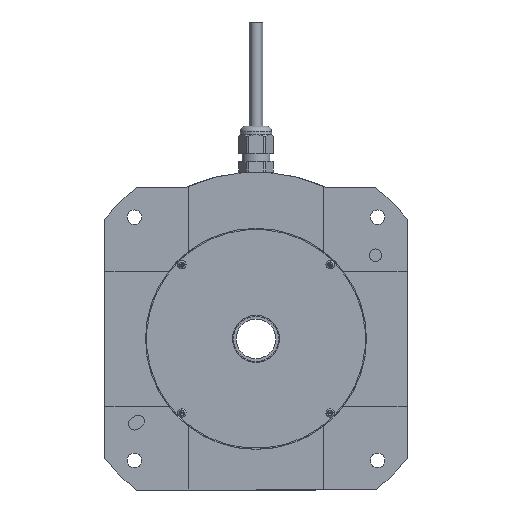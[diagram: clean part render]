
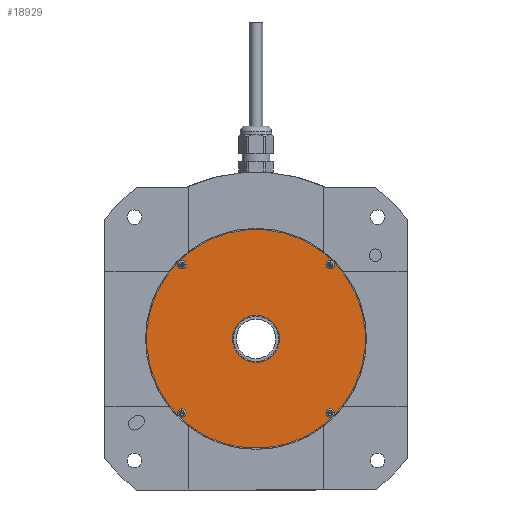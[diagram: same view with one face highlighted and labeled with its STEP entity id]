
A CAD part, front view. The second image highlights one B-rep face of the part: STEP entity #18929.
In plain terms, the highlighted planar face has unit normal (0, -1, 0).
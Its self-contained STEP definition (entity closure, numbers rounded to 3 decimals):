
#205 = EDGE_CURVE ( 'NONE', #10092, #21693, #2840, .T. ) ;
#257 = AXIS2_PLACEMENT_3D ( 'NONE', #3987, #3760, #7088 ) ;
#472 = ORIENTED_EDGE ( 'NONE', *, *, #205, .T. ) ;
#776 = DIRECTION ( 'NONE',  ( 0., 1., 0. ) ) ;
#807 = EDGE_CURVE ( 'NONE', #15080, #19200, #2138, .T. ) ;
#822 = CIRCLE ( 'NONE', #7948, 1.5 ) ;
#881 = CARTESIAN_POINT ( 'NONE',  ( 35.567, 1.5, 35.567 ) ) ;
#955 = VERTEX_POINT ( 'NONE', #10826 ) ;
#1368 = AXIS2_PLACEMENT_3D ( 'NONE', #3294, #16888, #9955 ) ;
#1726 = EDGE_LOOP ( 'NONE', ( #2961, #18874 ) ) ;
#1793 = CARTESIAN_POINT ( 'NONE',  ( -37.123, 1.5, -37.123 ) ) ;
#1878 = ORIENTED_EDGE ( 'NONE', *, *, #20286, .T. ) ;
#2058 = AXIS2_PLACEMENT_3D ( 'NONE', #7341, #776, #13951 ) ;
#2086 = AXIS2_PLACEMENT_3D ( 'NONE', #10496, #20783, #20351 ) ;
#2138 = CIRCLE ( 'NONE', #14526, 1.5 ) ;
#2636 = ORIENTED_EDGE ( 'NONE', *, *, #19185, .T. ) ;
#2840 = CIRCLE ( 'NONE', #15896, 1.5 ) ;
#2961 = ORIENTED_EDGE ( 'NONE', *, *, #5698, .T. ) ;
#3294 = CARTESIAN_POINT ( 'NONE',  ( -35.567, 1.5, -35.567 ) ) ;
#3736 = AXIS2_PLACEMENT_3D ( 'NONE', #11295, #17793, #18137 ) ;
#3760 = DIRECTION ( 'NONE',  ( 0., 1., 0. ) ) ;
#3954 = ORIENTED_EDGE ( 'NONE', *, *, #12160, .T. ) ;
#3987 = CARTESIAN_POINT ( 'NONE',  ( 0., 1.5, 0. ) ) ;
#4535 = EDGE_LOOP ( 'NONE', ( #472, #3954 ) ) ;
#4592 = EDGE_CURVE ( 'NONE', #19658, #11033, #6892, .T. ) ;
#5025 = CARTESIAN_POINT ( 'NONE',  ( 36.628, 1.5, 36.628 ) ) ;
#5115 = AXIS2_PLACEMENT_3D ( 'NONE', #881, #5993, #7663 ) ;
#5283 = AXIS2_PLACEMENT_3D ( 'NONE', #14720, #21479, #19830 ) ;
#5317 = DIRECTION ( 'NONE',  ( 0., 1., 0. ) ) ;
#5459 = DIRECTION ( 'NONE',  ( 0., 1., 0. ) ) ;
#5650 = EDGE_CURVE ( 'NONE', #20979, #21446, #14684, .T. ) ;
#5698 = EDGE_CURVE ( 'NONE', #955, #19625, #11875, .T. ) ;
#5993 = DIRECTION ( 'NONE',  ( 0., 1., 0. ) ) ;
#6026 = VERTEX_POINT ( 'NONE', #17473 ) ;
#6309 = DIRECTION ( 'NONE',  ( 0., 1., 0. ) ) ;
#6355 = DIRECTION ( 'NONE',  ( 0.707, 0., 0.707 ) ) ;
#6431 = ORIENTED_EDGE ( 'NONE', *, *, #17975, .F. ) ;
#6697 = CARTESIAN_POINT ( 'NONE',  ( -36.628, 1.5, -36.628 ) ) ;
#6892 = CIRCLE ( 'NONE', #5115, 1.5 ) ;
#6978 = FACE_BOUND ( 'NONE', #1726, .T. ) ;
#7088 = DIRECTION ( 'NONE',  ( 0.707, 0., 0.707 ) ) ;
#7117 = CARTESIAN_POINT ( 'NONE',  ( -34.507, 1.5, 36.628 ) ) ;
#7200 = PLANE ( 'NONE',  #257 ) ;
#7341 = CARTESIAN_POINT ( 'NONE',  ( 0., 1.5, 0. ) ) ;
#7404 = FACE_BOUND ( 'NONE', #4535, .T. ) ;
#7663 = DIRECTION ( 'NONE',  ( 0.707, 0., 0.707 ) ) ;
#7768 = EDGE_CURVE ( 'NONE', #19625, #955, #19750, .T. ) ;
#7948 = AXIS2_PLACEMENT_3D ( 'NONE', #9684, #16401, #6355 ) ;
#8521 = DIRECTION ( 'NONE',  ( 0., 1., 0. ) ) ;
#9484 = AXIS2_PLACEMENT_3D ( 'NONE', #14643, #11357, #11124 ) ;
#9684 = CARTESIAN_POINT ( 'NONE',  ( -35.567, 1.5, 35.567 ) ) ;
#9955 = DIRECTION ( 'NONE',  ( 0.707, 0., 0.707 ) ) ;
#10092 = VERTEX_POINT ( 'NONE', #7117 ) ;
#10291 = CIRCLE ( 'NONE', #13140, 1.5 ) ;
#10332 = CARTESIAN_POINT ( 'NONE',  ( -35.567, 1.5, -35.567 ) ) ;
#10496 = CARTESIAN_POINT ( 'NONE',  ( 0., 1.5, 0. ) ) ;
#10826 = CARTESIAN_POINT ( 'NONE',  ( -7.99, 1.5, -7.99 ) ) ;
#10854 = ORIENTED_EDGE ( 'NONE', *, *, #4592, .T. ) ;
#10947 = CARTESIAN_POINT ( 'NONE',  ( 0., 1.5, 0. ) ) ;
#11033 = VERTEX_POINT ( 'NONE', #5025 ) ;
#11062 = DIRECTION ( 'NONE',  ( 0.707, 0., 0.707 ) ) ;
#11124 = DIRECTION ( 'NONE',  ( 0.707, 0., 0.707 ) ) ;
#11295 = CARTESIAN_POINT ( 'NONE',  ( 0., 1.5, 0. ) ) ;
#11357 = DIRECTION ( 'NONE',  ( 0., 1., 0. ) ) ;
#11875 = CIRCLE ( 'NONE', #3736, 11.3 ) ;
#11915 = CARTESIAN_POINT ( 'NONE',  ( 34.507, 1.5, 34.507 ) ) ;
#11925 = VERTEX_POINT ( 'NONE', #6697 ) ;
#11948 = CARTESIAN_POINT ( 'NONE',  ( 35.567, 1.5, -35.567 ) ) ;
#12082 = DIRECTION ( 'NONE',  ( 0.707, 0., 0.707 ) ) ;
#12140 = ORIENTED_EDGE ( 'NONE', *, *, #16320, .T. ) ;
#12160 = EDGE_CURVE ( 'NONE', #21693, #10092, #822, .T. ) ;
#12991 = CARTESIAN_POINT ( 'NONE',  ( 34.507, 1.5, -36.628 ) ) ;
#13140 = AXIS2_PLACEMENT_3D ( 'NONE', #10332, #5459, #18615 ) ;
#13582 = ORIENTED_EDGE ( 'NONE', *, *, #18534, .T. ) ;
#13699 = FACE_BOUND ( 'NONE', #16368, .T. ) ;
#13951 = DIRECTION ( 'NONE',  ( 0.707, 0., 0.707 ) ) ;
#14526 = AXIS2_PLACEMENT_3D ( 'NONE', #11948, #8521, #20126 ) ;
#14643 = CARTESIAN_POINT ( 'NONE',  ( 35.567, 1.5, -35.567 ) ) ;
#14684 = CIRCLE ( 'NONE', #18562, 52.5 ) ;
#14720 = CARTESIAN_POINT ( 'NONE',  ( 35.567, 1.5, 35.567 ) ) ;
#14819 = EDGE_LOOP ( 'NONE', ( #2636, #12140 ) ) ;
#15080 = VERTEX_POINT ( 'NONE', #12991 ) ;
#15563 = FACE_BOUND ( 'NONE', #14819, .T. ) ;
#15674 = FACE_BOUND ( 'NONE', #21561, .T. ) ;
#15896 = AXIS2_PLACEMENT_3D ( 'NONE', #20463, #5317, #12082 ) ;
#16320 = EDGE_CURVE ( 'NONE', #11925, #6026, #10291, .T. ) ;
#16368 = EDGE_LOOP ( 'NONE', ( #13582, #21759 ) ) ;
#16401 = DIRECTION ( 'NONE',  ( 0., 1., 0. ) ) ;
#16888 = DIRECTION ( 'NONE',  ( 0., 1., 0. ) ) ;
#16940 = CIRCLE ( 'NONE', #2086, 52.5 ) ;
#17473 = CARTESIAN_POINT ( 'NONE',  ( -34.507, 1.5, -34.507 ) ) ;
#17793 = DIRECTION ( 'NONE',  ( 0., 1., 0. ) ) ;
#17975 = EDGE_CURVE ( 'NONE', #21446, #20979, #16940, .T. ) ;
#18137 = DIRECTION ( 'NONE',  ( 0.707, 0., 0.707 ) ) ;
#18151 = EDGE_LOOP ( 'NONE', ( #6431, #20523 ) ) ;
#18330 = CIRCLE ( 'NONE', #1368, 1.5 ) ;
#18534 = EDGE_CURVE ( 'NONE', #19200, #15080, #21132, .T. ) ;
#18562 = AXIS2_PLACEMENT_3D ( 'NONE', #10947, #6309, #11062 ) ;
#18615 = DIRECTION ( 'NONE',  ( 0.707, 0., 0.707 ) ) ;
#18684 = FACE_OUTER_BOUND ( 'NONE', #18151, .T. ) ;
#18874 = ORIENTED_EDGE ( 'NONE', *, *, #7768, .T. ) ;
#18929 = ADVANCED_FACE ( 'NONE', ( #7404, #15674, #13699, #15563, #18684, #6978 ), #7200, .F. ) ;
#19185 = EDGE_CURVE ( 'NONE', #6026, #11925, #18330, .T. ) ;
#19200 = VERTEX_POINT ( 'NONE', #19805 ) ;
#19399 = CIRCLE ( 'NONE', #5283, 1.5 ) ;
#19625 = VERTEX_POINT ( 'NONE', #21434 ) ;
#19658 = VERTEX_POINT ( 'NONE', #11915 ) ;
#19750 = CIRCLE ( 'NONE', #2058, 11.3 ) ;
#19805 = CARTESIAN_POINT ( 'NONE',  ( 36.628, 1.5, -34.507 ) ) ;
#19830 = DIRECTION ( 'NONE',  ( 0.707, 0., 0.707 ) ) ;
#20126 = DIRECTION ( 'NONE',  ( 0.707, 0., 0.707 ) ) ;
#20286 = EDGE_CURVE ( 'NONE', #11033, #19658, #19399, .T. ) ;
#20351 = DIRECTION ( 'NONE',  ( 0.707, 0., 0.707 ) ) ;
#20463 = CARTESIAN_POINT ( 'NONE',  ( -35.567, 1.5, 35.567 ) ) ;
#20523 = ORIENTED_EDGE ( 'NONE', *, *, #5650, .F. ) ;
#20783 = DIRECTION ( 'NONE',  ( 0., 1., 0. ) ) ;
#20979 = VERTEX_POINT ( 'NONE', #21535 ) ;
#21132 = CIRCLE ( 'NONE', #9484, 1.5 ) ;
#21376 = CARTESIAN_POINT ( 'NONE',  ( -36.628, 1.5, 34.507 ) ) ;
#21434 = CARTESIAN_POINT ( 'NONE',  ( 7.99, 1.5, 7.99 ) ) ;
#21446 = VERTEX_POINT ( 'NONE', #1793 ) ;
#21479 = DIRECTION ( 'NONE',  ( 0., 1., 0. ) ) ;
#21535 = CARTESIAN_POINT ( 'NONE',  ( 37.123, 1.5, 37.123 ) ) ;
#21561 = EDGE_LOOP ( 'NONE', ( #1878, #10854 ) ) ;
#21693 = VERTEX_POINT ( 'NONE', #21376 ) ;
#21759 = ORIENTED_EDGE ( 'NONE', *, *, #807, .T. ) ;
